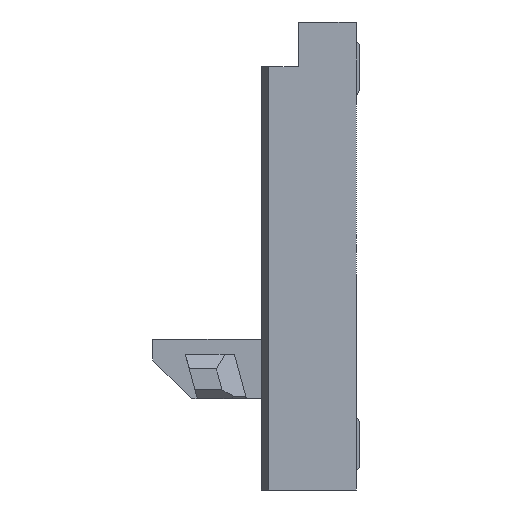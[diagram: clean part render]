
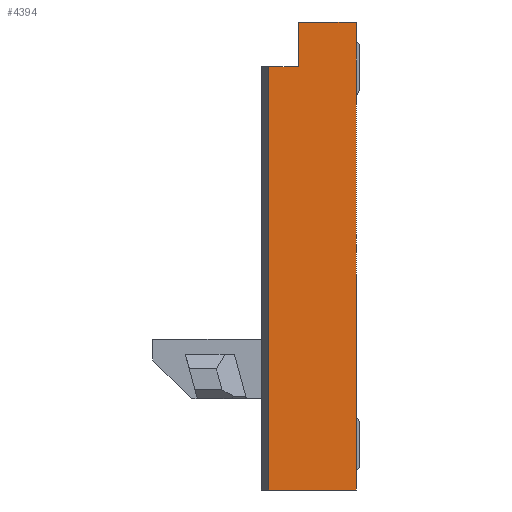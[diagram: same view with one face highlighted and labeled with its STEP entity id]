
A CAD part, left-side view. The second image highlights one B-rep face of the part: STEP entity #4394.
In plain terms, the highlighted planar face has unit normal (-1, 0, 0).
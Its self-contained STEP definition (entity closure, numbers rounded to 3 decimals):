
#6 = CARTESIAN_POINT ( 'NONE',  ( -1.75, 0.39, 0. ) ) ;
#9 = VECTOR ( 'NONE', #53, 1000. ) ;
#10 = CARTESIAN_POINT ( 'NONE',  ( -1.75, 0., 0. ) ) ;
#11 = LINE ( 'NONE', #10, #9 ) ;
#53 = DIRECTION ( 'NONE',  ( 0., 0., -1. ) ) ;
#54 = LINE ( 'NONE', #85, #84 ) ;
#67 = DIRECTION ( 'NONE',  ( 0., -1., 0. ) ) ;
#68 = VECTOR ( 'NONE', #67, 1000. ) ;
#69 = CARTESIAN_POINT ( 'NONE',  ( -1.75, 0.64, 0. ) ) ;
#70 = LINE ( 'NONE', #69, #68 ) ;
#77 = DIRECTION ( 'NONE',  ( 0., 1., 0. ) ) ;
#80 = DIRECTION ( 'NONE',  ( 0., 1., 0. ) ) ;
#81 = VECTOR ( 'NONE', #80, 1000. ) ;
#82 = CARTESIAN_POINT ( 'NONE',  ( -1.75, 0., -0.3 ) ) ;
#83 = LINE ( 'NONE', #82, #81 ) ;
#84 = VECTOR ( 'NONE', #77, 1000. ) ;
#85 = CARTESIAN_POINT ( 'NONE',  ( -1.75, 0.64, -3.15 ) ) ;
#93 = CARTESIAN_POINT ( 'NONE',  ( -1.75, 0., 0. ) ) ;
#102 = CARTESIAN_POINT ( 'NONE',  ( -1.75, 0.59, -3.15 ) ) ;
#117 = DIRECTION ( 'NONE',  ( 0., 0., 1. ) ) ;
#118 = VECTOR ( 'NONE', #117, 1000. ) ;
#119 = CARTESIAN_POINT ( 'NONE',  ( -1.75, 0.39, 0. ) ) ;
#120 = LINE ( 'NONE', #119, #118 ) ;
#157 = CARTESIAN_POINT ( 'NONE',  ( -1.75, 0.39, -0.3 ) ) ;
#280 = DIRECTION ( 'NONE',  ( 0., 0., -1. ) ) ;
#302 = CARTESIAN_POINT ( 'NONE',  ( -1.75, 0.59, -0.3 ) ) ;
#324 = PLANE ( 'NONE',  #337 ) ;
#325 = FACE_OUTER_BOUND ( 'NONE', #4346, .T. ) ;
#337 = AXIS2_PLACEMENT_3D ( 'NONE', #340, #339, #280 ) ;
#339 = DIRECTION ( 'NONE',  ( 1., 0., 0. ) ) ;
#340 = CARTESIAN_POINT ( 'NONE',  ( -1.75, 0., 0. ) ) ;
#356 = DIRECTION ( 'NONE',  ( 0., 0., 1. ) ) ;
#357 = VECTOR ( 'NONE', #356, 1000. ) ;
#358 = CARTESIAN_POINT ( 'NONE',  ( -1.75, 0.59, -3.15 ) ) ;
#359 = LINE ( 'NONE', #358, #357 ) ;
#376 = CARTESIAN_POINT ( 'NONE',  ( -1.75, 0., -3.15 ) ) ;
#4201 = EDGE_CURVE ( 'NONE', #4348, #4209, #54, .T. ) ;
#4202 = VERTEX_POINT ( 'NONE', #93 ) ;
#4209 = VERTEX_POINT ( 'NONE', #102 ) ;
#4212 = VERTEX_POINT ( 'NONE', #6 ) ;
#4213 = EDGE_CURVE ( 'NONE', #4296, #4385, #83, .T. ) ;
#4214 = EDGE_CURVE ( 'NONE', #4202, #4348, #11, .T. ) ;
#4221 = EDGE_CURVE ( 'NONE', #4212, #4202, #70, .T. ) ;
#4283 = ORIENTED_EDGE ( 'NONE', *, *, #4221, .F. ) ;
#4291 = EDGE_CURVE ( 'NONE', #4296, #4212, #120, .T. ) ;
#4293 = ORIENTED_EDGE ( 'NONE', *, *, #4213, .T. ) ;
#4296 = VERTEX_POINT ( 'NONE', #157 ) ;
#4314 = ORIENTED_EDGE ( 'NONE', *, *, #4214, .F. ) ;
#4346 = EDGE_LOOP ( 'NONE', ( #4349, #4293, #4368, #4347, #4314, #4283 ) ) ;
#4347 = ORIENTED_EDGE ( 'NONE', *, *, #4201, .F. ) ;
#4348 = VERTEX_POINT ( 'NONE', #376 ) ;
#4349 = ORIENTED_EDGE ( 'NONE', *, *, #4291, .F. ) ;
#4368 = ORIENTED_EDGE ( 'NONE', *, *, #4374, .F. ) ;
#4374 = EDGE_CURVE ( 'NONE', #4209, #4385, #359, .T. ) ;
#4385 = VERTEX_POINT ( 'NONE', #302 ) ;
#4394 = ADVANCED_FACE ( 'NONE', ( #325 ), #324, .F. ) ;
